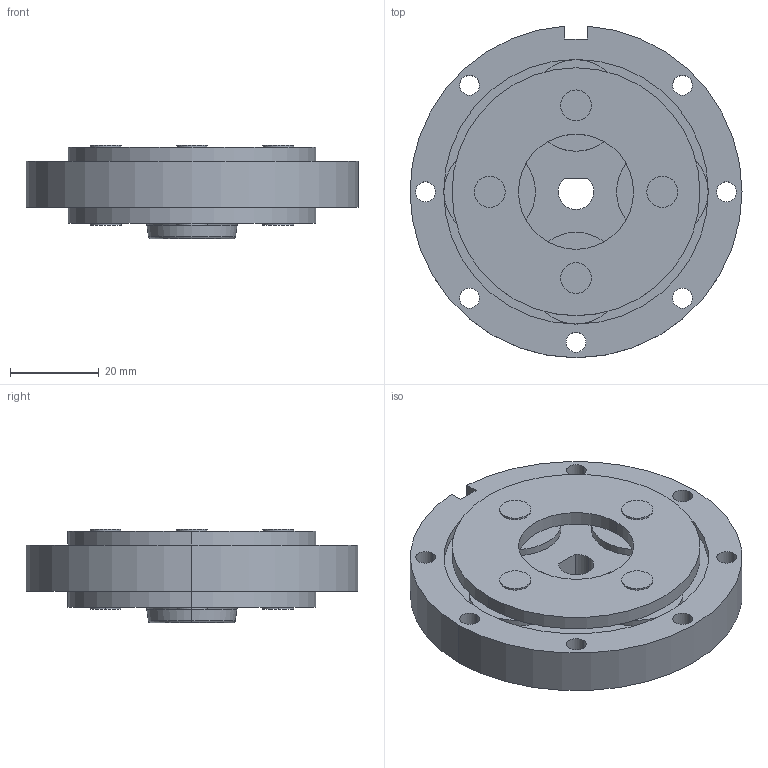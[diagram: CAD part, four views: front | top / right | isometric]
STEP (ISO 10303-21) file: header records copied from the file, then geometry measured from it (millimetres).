
FILE_DESCRIPTION (( 'STEP AP203' ), '1' );
FILE_NAME ('LGU75-4SAD.step', '2021-07-23T02:25:46', ( '' ), ( '' ), 'SwSTEP 2.0', 'SolidWorks 2021', '' );
FILE_SCHEMA (( 'CONFIG_CONTROL_DESIGN' ));
Length unit declared in the file: millimetre
Products named in the file (1): LGU75-4SAD
Bounding box: 75 x 74.92 x 21.1 mm (x, y, z)
Volume: 53465.6 mm3; surface area: 24114.9 mm2
Topology: 1 solids, 1 shells, 269 faces, 728 edges, 484 vertices
Faces by surface type: cylinder 234, plane 29, torus 4, cone 2
Entity records: 8891 total; most frequent: DIRECTION 1748, CARTESIAN_POINT 1482, ORIENTED_EDGE 1456, AXIS2_PLACEMENT_3D 750, EDGE_CURVE 728, VERTEX_POINT 484, CIRCLE 480, EDGE_LOOP 324
